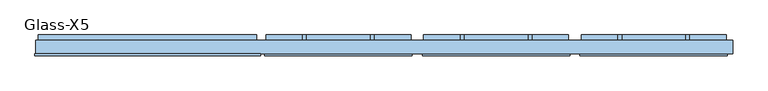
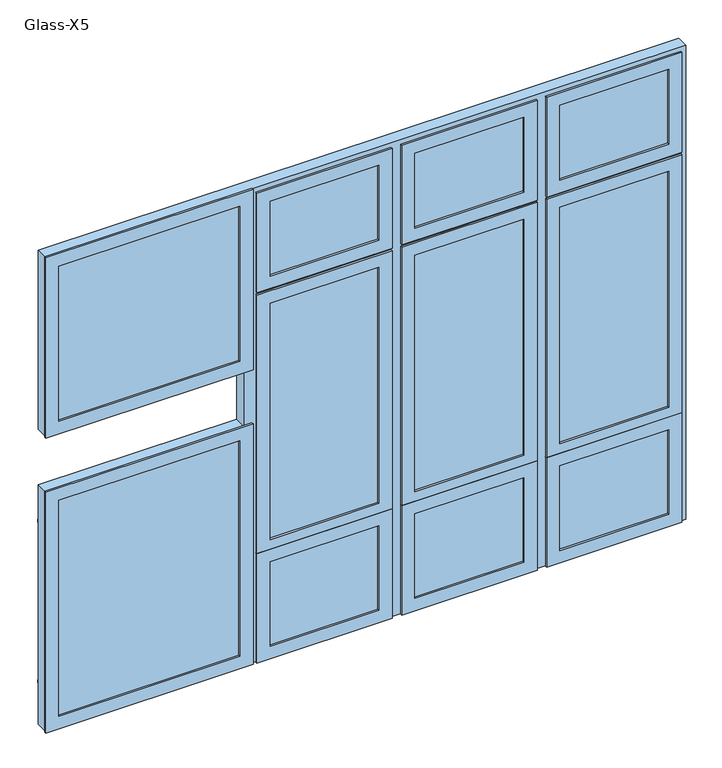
"""IFC4 building model written with IfcOpenShell, lengths in millimetres: window geometry, WDW-CSM-HAA-Type4 : Glass-X5."""

from ifc_helpers import new_model, si_unit, frame, origin, place, context, project, spatial, polyline, outline, extrude, faceted_brep, source, transform, mapped, element, save


def glass_x5_4ce3d7e7(model_context):
    return source(origin(), model_context, "Body", "SolidModel", [
        extrude(outline(polyline([(-381.5, -24.5), (-1029.3, -24.5), (-1029.3, -18.5), (-381.5, -18.5), (-381.5, -24.5)])), frame((0.0, 0.0, 795.0), z_axis=(0.0, 0.0, 1.0), x_axis=(1.0, 0.0, 0.0)), (0.0, 0.0, 1.0), 820.0),
        faceted_brep([(721.9, -31.5, 1164.1), (721.9, -25.0, 1164.1), (721.9, -25.0, 747.9), (721.9, -31.5, 747.9), (769.1, -11.5, 1116.9), (769.1, -31.5, 1116.9), (769.1, -31.5, 795.1), (769.1, -11.5, 795.1), (758.6, 18.5, 1127.4), (758.6, 18.5, 784.6), (750.0, -25.0, 1136.0), (750.0, 18.5, 1136.0), (750.0, 18.5, 776.0), (750.0, -25.0, 776.0), (1208.3, -25.0, 747.9), (1208.3, -31.5, 747.9), (1161.1, -31.5, 795.1), (1161.1, -11.5, 795.1), (1171.6, 18.5, 784.6), (1180.2, 18.5, 776.0), (1180.2, -25.0, 776.0), (1208.3, -25.0, 1164.1), (1208.3, -31.5, 1164.1), (1161.1, -31.5, 1116.9), (1161.1, -11.5, 1116.9), (1171.6, 18.5, 1127.4), (1180.2, 18.5, 1136.0), (1180.2, -25.0, 1136.0)], [[[0, 1, 2, 3]], [[4, 5, 6, 7]], [[8, 4, 7, 9]], [[10, 11, 12, 13]], [[3, 2, 14, 15]], [[7, 6, 16, 17]], [[9, 7, 17, 18]], [[13, 12, 19, 20]], [[15, 14, 21, 22]], [[17, 16, 23, 24]], [[18, 17, 24, 25]], [[20, 19, 26, 27]], [[22, 21, 1, 0]], [[3, 15, 22, 0], [5, 23, 16, 6]], [[24, 23, 5, 4]], [[25, 24, 4, 8]], [[11, 26, 19, 12], [9, 18, 25, 8]], [[27, 26, 11, 10]], [[1, 21, 14, 2], [13, 20, 27, 10]]]),
        faceted_brep([(721.9, -31.5, 2145.1), (721.9, -25.0, 2145.1), (721.9, -25.0, 1153.9), (721.9, -31.5, 1153.9), (769.1, -11.5, 2097.9), (769.1, -31.5, 2097.9), (769.1, -31.5, 1201.1), (769.1, -11.5, 1201.1), (758.6, 18.5, 2108.4), (758.6, 18.5, 1190.6), (750.0, -25.0, 2117.0), (750.0, 18.5, 2117.0), (750.0, 18.5, 1182.0), (750.0, -25.0, 1182.0), (1208.3, -25.0, 1153.9), (1208.3, -31.5, 1153.9), (1161.1, -31.5, 1201.1), (1161.1, -11.5, 1201.1), (1171.6, 18.5, 1190.6), (1180.2, 18.5, 1182.0), (1180.2, -25.0, 1182.0), (1208.3, -25.0, 2145.1), (1208.3, -31.5, 2145.1), (1161.1, -31.5, 2097.9), (1161.1, -11.5, 2097.9), (1171.6, 18.5, 2108.4), (1180.2, 18.5, 2117.0), (1180.2, -25.0, 2117.0)], [[[0, 1, 2, 3]], [[4, 5, 6, 7]], [[8, 4, 7, 9]], [[10, 11, 12, 13]], [[3, 2, 14, 15]], [[7, 6, 16, 17]], [[9, 7, 17, 18]], [[13, 12, 19, 20]], [[15, 14, 21, 22]], [[17, 16, 23, 24]], [[18, 17, 24, 25]], [[20, 19, 26, 27]], [[22, 21, 1, 0]], [[3, 15, 22, 0], [5, 23, 16, 6]], [[24, 23, 5, 4]], [[25, 24, 4, 8]], [[11, 26, 19, 12], [9, 18, 25, 8]], [[27, 26, 11, 10]], [[1, 21, 14, 2], [13, 20, 27, 10]]]),
        faceted_brep([(1208.3, -31.5, 2533.1), (1208.3, -25.0, 2533.1), (721.9, -25.0, 2533.1), (721.9, -31.5, 2533.1), (721.9, -25.0, 2153.9), (721.9, -31.5, 2153.9), (1208.3, -25.0, 2153.9), (750.0, -25.0, 2182.0), (1180.2, -25.0, 2182.0), (1180.2, -25.0, 2505.0), (750.0, -25.0, 2505.0), (1208.3, -31.5, 2153.9), (769.1, -31.5, 2485.9), (1161.1, -31.5, 2485.9), (1161.1, -31.5, 2201.1), (769.1, -31.5, 2201.1), (1161.1, -11.5, 2485.9), (769.1, -11.5, 2485.9), (769.1, -11.5, 2201.1), (758.6, 18.5, 2496.4), (758.6, 18.5, 2190.6), (1171.6, 18.5, 2496.4), (750.0, 18.5, 2505.0), (1180.2, 18.5, 2505.0), (1180.2, 18.5, 2182.0), (750.0, 18.5, 2182.0), (1171.6, 18.5, 2190.6), (1161.1, -11.5, 2201.1)], [[[0, 1, 2, 3]], [[3, 2, 4, 5]], [[2, 1, 6, 4], [7, 8, 9, 10]], [[5, 11, 0, 3], [12, 13, 14, 15]], [[16, 13, 12, 17]], [[17, 12, 15, 18]], [[19, 17, 18, 20]], [[21, 16, 17, 19]], [[22, 23, 24, 25], [20, 26, 21, 19]], [[9, 23, 22, 10]], [[10, 22, 25, 7]], [[11, 6, 1, 0]], [[27, 14, 13, 16]], [[26, 27, 16, 21]], [[8, 24, 23, 9]], [[5, 4, 6, 11]], [[18, 15, 14, 27]], [[20, 18, 27, 26]], [[7, 25, 24, 8]]]),
        faceted_brep([(201.7, -31.5, 1164.1), (201.7, -25.0, 1164.1), (201.7, -25.0, 747.9), (201.7, -31.5, 747.9), (248.9, -11.5, 1116.9), (248.9, -31.5, 1116.9), (248.9, -31.5, 795.1), (248.9, -11.5, 795.1), (238.4, 18.5, 1127.4), (238.4, 18.5, 784.6), (229.8, -25.0, 1136.0), (229.8, 18.5, 1136.0), (229.8, 18.5, 776.0), (229.8, -25.0, 776.0), (688.1, -25.0, 747.9), (688.1, -31.5, 747.9), (640.9, -31.5, 795.1), (640.9, -11.5, 795.1), (651.4, 18.5, 784.6), (660.0, 18.5, 776.0), (660.0, -25.0, 776.0), (688.1, -25.0, 1164.1), (688.1, -31.5, 1164.1), (640.9, -31.5, 1116.9), (640.9, -11.5, 1116.9), (651.4, 18.5, 1127.4), (660.0, 18.5, 1136.0), (660.0, -25.0, 1136.0)], [[[0, 1, 2, 3]], [[4, 5, 6, 7]], [[8, 4, 7, 9]], [[10, 11, 12, 13]], [[3, 2, 14, 15]], [[7, 6, 16, 17]], [[9, 7, 17, 18]], [[13, 12, 19, 20]], [[15, 14, 21, 22]], [[17, 16, 23, 24]], [[18, 17, 24, 25]], [[20, 19, 26, 27]], [[22, 21, 1, 0]], [[3, 15, 22, 0], [5, 23, 16, 6]], [[24, 23, 5, 4]], [[25, 24, 4, 8]], [[11, 26, 19, 12], [9, 18, 25, 8]], [[27, 26, 11, 10]], [[1, 21, 14, 2], [13, 20, 27, 10]]]),
        faceted_brep([(201.7, -31.5, 2145.1), (201.7, -25.0, 2145.1), (201.7, -25.0, 1153.9), (201.7, -31.5, 1153.9), (248.9, -11.5, 2097.9), (248.9, -31.5, 2097.9), (248.9, -31.5, 1201.1), (248.9, -11.5, 1201.1), (238.4, 18.5, 2108.4), (238.4, 18.5, 1190.6), (229.8, -25.0, 2117.0), (229.8, 18.5, 2117.0), (229.8, 18.5, 1182.0), (229.8, -25.0, 1182.0), (688.1, -25.0, 1153.9), (688.1, -31.5, 1153.9), (640.9, -31.5, 1201.1), (640.9, -11.5, 1201.1), (651.4, 18.5, 1190.6), (660.0, 18.5, 1182.0), (660.0, -25.0, 1182.0), (688.1, -25.0, 2145.1), (688.1, -31.5, 2145.1), (640.9, -31.5, 2097.9), (640.9, -11.5, 2097.9), (651.4, 18.5, 2108.4), (660.0, 18.5, 2117.0), (660.0, -25.0, 2117.0)], [[[0, 1, 2, 3]], [[4, 5, 6, 7]], [[8, 4, 7, 9]], [[10, 11, 12, 13]], [[3, 2, 14, 15]], [[7, 6, 16, 17]], [[9, 7, 17, 18]], [[13, 12, 19, 20]], [[15, 14, 21, 22]], [[17, 16, 23, 24]], [[18, 17, 24, 25]], [[20, 19, 26, 27]], [[22, 21, 1, 0]], [[3, 15, 22, 0], [5, 23, 16, 6]], [[24, 23, 5, 4]], [[25, 24, 4, 8]], [[11, 26, 19, 12], [9, 18, 25, 8]], [[27, 26, 11, 10]], [[1, 21, 14, 2], [13, 20, 27, 10]]]),
        faceted_brep([(688.1, -31.5, 2533.1), (688.1, -25.0, 2533.1), (201.7, -25.0, 2533.1), (201.7, -31.5, 2533.1), (201.7, -25.0, 2153.9), (201.7, -31.5, 2153.9), (688.1, -25.0, 2153.9), (229.8, -25.0, 2182.0), (660.0, -25.0, 2182.0), (660.0, -25.0, 2505.0), (229.8, -25.0, 2505.0), (688.1, -31.5, 2153.9), (248.9, -31.5, 2485.9), (640.9, -31.5, 2485.9), (640.9, -31.5, 2201.1), (248.9, -31.5, 2201.1), (640.9, -11.5, 2485.9), (248.9, -11.5, 2485.9), (248.9, -11.5, 2201.1), (238.4, 18.5, 2496.4), (238.4, 18.5, 2190.6), (651.4, 18.5, 2496.4), (229.8, 18.5, 2505.0), (660.0, 18.5, 2505.0), (660.0, 18.5, 2182.0), (229.8, 18.5, 2182.0), (651.4, 18.5, 2190.6), (640.9, -11.5, 2201.1)], [[[0, 1, 2, 3]], [[3, 2, 4, 5]], [[2, 1, 6, 4], [7, 8, 9, 10]], [[5, 11, 0, 3], [12, 13, 14, 15]], [[16, 13, 12, 17]], [[17, 12, 15, 18]], [[19, 17, 18, 20]], [[21, 16, 17, 19]], [[22, 23, 24, 25], [20, 26, 21, 19]], [[9, 23, 22, 10]], [[10, 22, 25, 7]], [[11, 6, 1, 0]], [[27, 14, 13, 16]], [[26, 27, 16, 21]], [[8, 24, 23, 9]], [[5, 4, 6, 11]], [[18, 15, 14, 27]], [[20, 18, 27, 26]], [[7, 25, 24, 8]]]),
        faceted_brep([(-318.5, -31.5, 1164.1), (-318.5, -25.0, 1164.1), (-318.5, -25.0, 747.9), (-318.5, -31.5, 747.9), (-271.3, -11.5, 1116.9), (-271.3, -31.5, 1116.9), (-271.3, -31.5, 795.1), (-271.3, -11.5, 795.1), (-281.8, 18.5, 1127.4), (-281.8, 18.5, 784.6), (-290.4, -25.0, 1136.0), (-290.4, 18.5, 1136.0), (-290.4, 18.5, 776.0), (-290.4, -25.0, 776.0), (166.9, -25.0, 747.9), (166.9, -31.5, 747.9), (119.7, -31.5, 795.1), (119.7, -11.5, 795.1), (130.2, 18.5, 784.6), (138.8, 18.5, 776.0), (138.8, -25.0, 776.0), (166.9, -25.0, 1164.1), (166.9, -31.5, 1164.1), (119.7, -31.5, 1116.9), (119.7, -11.5, 1116.9), (130.2, 18.5, 1127.4), (138.8, 18.5, 1136.0), (138.8, -25.0, 1136.0)], [[[0, 1, 2, 3]], [[4, 5, 6, 7]], [[8, 4, 7, 9]], [[10, 11, 12, 13]], [[3, 2, 14, 15]], [[7, 6, 16, 17]], [[9, 7, 17, 18]], [[13, 12, 19, 20]], [[15, 14, 21, 22]], [[17, 16, 23, 24]], [[18, 17, 24, 25]], [[20, 19, 26, 27]], [[22, 21, 1, 0]], [[3, 15, 22, 0], [5, 23, 16, 6]], [[24, 23, 5, 4]], [[25, 24, 4, 8]], [[11, 26, 19, 12], [9, 18, 25, 8]], [[27, 26, 11, 10]], [[1, 21, 14, 2], [13, 20, 27, 10]]]),
        faceted_brep([(-318.5, -31.5, 2145.1), (-318.5, -25.0, 2145.1), (-318.5, -25.0, 1153.9), (-318.5, -31.5, 1153.9), (-271.3, -11.5, 2097.9), (-271.3, -31.5, 2097.9), (-271.3, -31.5, 1201.1), (-271.3, -11.5, 1201.1), (-281.8, 18.5, 2108.4), (-281.8, 18.5, 1190.6), (-290.4, -25.0, 2117.0), (-290.4, 18.5, 2117.0), (-290.4, 18.5, 1182.0), (-290.4, -25.0, 1182.0), (166.9, -25.0, 1153.9), (166.9, -31.5, 1153.9), (119.7, -31.5, 1201.1), (119.7, -11.5, 1201.1), (130.2, 18.5, 1190.6), (138.8, 18.5, 1182.0), (138.8, -25.0, 1182.0), (166.9, -25.0, 2145.1), (166.9, -31.5, 2145.1), (119.7, -31.5, 2097.9), (119.7, -11.5, 2097.9), (130.2, 18.5, 2108.4), (138.8, 18.5, 2117.0), (138.8, -25.0, 2117.0)], [[[0, 1, 2, 3]], [[4, 5, 6, 7]], [[8, 4, 7, 9]], [[10, 11, 12, 13]], [[3, 2, 14, 15]], [[7, 6, 16, 17]], [[9, 7, 17, 18]], [[13, 12, 19, 20]], [[15, 14, 21, 22]], [[17, 16, 23, 24]], [[18, 17, 24, 25]], [[20, 19, 26, 27]], [[22, 21, 1, 0]], [[3, 15, 22, 0], [5, 23, 16, 6]], [[24, 23, 5, 4]], [[25, 24, 4, 8]], [[11, 26, 19, 12], [9, 18, 25, 8]], [[27, 26, 11, 10]], [[1, 21, 14, 2], [13, 20, 27, 10]]]),
        faceted_brep([(166.9, -31.5, 2533.1), (166.9, -25.0, 2533.1), (-318.5, -25.0, 2533.1), (-318.5, -31.5, 2533.1), (-318.5, -25.0, 2153.9), (-318.5, -31.5, 2153.9), (166.9, -25.0, 2153.9), (-290.4, -25.0, 2182.0), (138.8, -25.0, 2182.0), (138.8, -25.0, 2505.0), (-290.4, -25.0, 2505.0), (166.9, -31.5, 2153.9), (-271.3, -31.5, 2485.9), (119.7, -31.5, 2485.9), (119.7, -31.5, 2201.1), (-271.3, -31.5, 2201.1), (119.7, -11.5, 2485.9), (-271.3, -11.5, 2485.9), (-271.3, -11.5, 2201.1), (-281.8, 18.5, 2496.4), (-281.8, 18.5, 2190.6), (130.2, 18.5, 2496.4), (-290.4, 18.5, 2505.0), (138.8, 18.5, 2505.0), (138.8, 18.5, 2182.0), (-290.4, 18.5, 2182.0), (130.2, 18.5, 2190.6), (119.7, -11.5, 2201.1)], [[[0, 1, 2, 3]], [[3, 2, 4, 5]], [[2, 1, 6, 4], [7, 8, 9, 10]], [[5, 11, 0, 3], [12, 13, 14, 15]], [[16, 13, 12, 17]], [[17, 12, 15, 18]], [[19, 17, 18, 20]], [[21, 16, 17, 19]], [[22, 23, 24, 25], [20, 26, 21, 19]], [[9, 23, 22, 10]], [[10, 22, 25, 7]], [[11, 6, 1, 0]], [[27, 14, 13, 16]], [[26, 27, 16, 21]], [[8, 24, 23, 9]], [[5, 4, 6, 11]], [[18, 15, 14, 27]], [[20, 18, 27, 26]], [[7, 25, 24, 8]]]),
        faceted_brep([(-332.3, -31.5, 2552.1), (-332.3, -25.0, 2552.1), (-1076.5, -25.0, 2552.1), (-1076.5, -31.5, 2552.1), (-1076.5, -25.0, 1867.9), (-1076.5, -31.5, 1867.9), (-332.3, -25.0, 1867.9), (-1048.4, -25.0, 1896.0), (-360.4, -25.0, 1896.0), (-360.4, -25.0, 2524.0), (-1048.4, -25.0, 2524.0), (-332.3, -31.5, 1867.9), (-1029.3, -31.5, 2504.9), (-379.5, -31.5, 2504.9), (-379.5, -31.5, 1915.1), (-1029.3, -31.5, 1915.1), (-379.5, -11.5, 2504.9), (-1029.3, -11.5, 2504.9), (-1029.3, -11.5, 1915.1), (-1039.8, 18.5, 2515.4), (-1039.8, 18.5, 1904.6), (-369.0, 18.5, 2515.4), (-1048.4, 18.5, 2524.0), (-360.4, 18.5, 2524.0), (-360.4, 18.5, 1896.0), (-1048.4, 18.5, 1896.0), (-369.0, 18.5, 1904.6), (-379.5, -11.5, 1915.1)], [[[0, 1, 2, 3]], [[3, 2, 4, 5]], [[2, 1, 6, 4], [7, 8, 9, 10]], [[5, 11, 0, 3], [12, 13, 14, 15]], [[16, 13, 12, 17]], [[17, 12, 15, 18]], [[19, 17, 18, 20]], [[21, 16, 17, 19]], [[22, 23, 24, 25], [20, 26, 21, 19]], [[9, 23, 22, 10]], [[10, 22, 25, 7]], [[11, 6, 1, 0]], [[27, 14, 13, 16]], [[26, 27, 16, 21]], [[8, 24, 23, 9]], [[5, 4, 6, 11]], [[18, 15, 14, 27]], [[20, 18, 27, 26]], [[7, 25, 24, 8]]]),
        faceted_brep([(-1076.5, -31.5, 1662.1), (-1076.5, -25.0, 1662.1), (-1076.5, -25.0, 747.9), (-1076.5, -31.5, 747.9), (-1029.3, -11.5, 1614.9), (-1029.3, -31.5, 1614.9), (-1029.3, -31.5, 795.1), (-1029.3, -11.5, 795.1), (-1039.8, 18.5, 1625.4), (-1039.8, 18.5, 784.6), (-1048.4, -25.0, 1634.0), (-1048.4, 18.5, 1634.0), (-1048.4, 18.5, 776.0), (-1048.4, -25.0, 776.0), (-332.3, -25.0, 747.9), (-332.3, -31.5, 747.9), (-379.5, -31.5, 795.1), (-379.5, -11.5, 795.1), (-369.0, 18.5, 784.6), (-360.4, 18.5, 776.0), (-360.4, -25.0, 776.0), (-332.3, -25.0, 1662.1), (-332.3, -31.5, 1662.1), (-379.5, -31.5, 1614.9), (-379.5, -11.5, 1614.9), (-369.0, 18.5, 1625.4), (-360.4, 18.5, 1634.0), (-360.4, -25.0, 1634.0)], [[[0, 1, 2, 3]], [[4, 5, 6, 7]], [[8, 4, 7, 9]], [[10, 11, 12, 13]], [[3, 2, 14, 15]], [[7, 6, 16, 17]], [[9, 7, 17, 18]], [[13, 12, 19, 20]], [[15, 14, 21, 22]], [[17, 16, 23, 24]], [[18, 17, 24, 25]], [[20, 19, 26, 27]], [[22, 21, 1, 0]], [[3, 15, 22, 0], [5, 23, 16, 6]], [[24, 23, 5, 4]], [[25, 24, 4, 8]], [[11, 26, 19, 12], [9, 18, 25, 8]], [[27, 26, 11, 10]], [[1, 21, 14, 2], [13, 20, 27, 10]]]),
        extrude(outline(polyline([(119.7, -24.5), (-271.3, -24.5), (-271.3, -18.5), (119.7, -18.5), (119.7, -24.5)])), frame((0.0, 0.0, 1201.0), z_axis=(0.0, 0.0, 1.0), x_axis=(1.0, 0.0, 0.0)), (0.0, 0.0, 1.0), 897.0),
        extrude(outline(polyline([(119.7, -24.5), (-271.3, -24.5), (-271.3, -18.5), (119.7, -18.5), (119.7, -24.5)])), frame((0.0, 0.0, 795.0), z_axis=(0.0, 0.0, 1.0), x_axis=(1.0, 0.0, 0.0)), (0.0, 0.0, 1.0), 322.0),
        extrude(outline(polyline([(119.8, -24.5), (-271.4, -24.5), (-271.4, -18.5), (119.8, -18.5), (119.8, -24.5)])), frame((0.0, 0.0, 2201.0), z_axis=(0.0, 0.0, 1.0), x_axis=(1.0, 0.0, 0.0)), (0.0, 0.0, 1.0), 285.0),
        extrude(outline(polyline([(640.9, -24.5), (248.9, -24.5), (248.9, -18.5), (640.9, -18.5), (640.9, -24.5)])), frame((0.0, 0.0, 1201.0), z_axis=(0.0, 0.0, 1.0), x_axis=(1.0, 0.0, 0.0)), (0.0, 0.0, 1.0), 897.0),
        extrude(outline(polyline([(640.9, -24.5), (248.9, -24.5), (248.9, -18.5), (640.9, -18.5), (640.9, -24.5)])), frame((0.0, 0.0, 795.0), z_axis=(0.0, 0.0, 1.0), x_axis=(1.0, 0.0, 0.0)), (0.0, 0.0, 1.0), 322.0),
        extrude(outline(polyline([(641.0, -24.5), (248.8, -24.5), (248.8, -18.5), (641.0, -18.5), (641.0, -24.5)])), frame((0.0, 0.0, 2201.0), z_axis=(0.0, 0.0, 1.0), x_axis=(1.0, 0.0, 0.0)), (0.0, 0.0, 1.0), 285.0),
        extrude(outline(polyline([(1161.1, -24.5), (769.1, -24.5), (769.1, -18.5), (1161.1, -18.5), (1161.1, -24.5)])), frame((0.0, 0.0, 1201.0), z_axis=(0.0, 0.0, 1.0), x_axis=(1.0, 0.0, 0.0)), (0.0, 0.0, 1.0), 896.9),
        extrude(outline(polyline([(1161.1, -24.5), (769.1, -24.5), (769.1, -18.5), (1161.1, -18.5), (1161.1, -24.5)])), frame((0.0, 0.0, 795.1), z_axis=(0.0, 0.0, 1.0), x_axis=(1.0, 0.0, 0.0)), (0.0, 0.0, 1.0), 321.9),
        extrude(outline(polyline([(1161.1, -24.5), (769.1, -24.5), (769.1, -18.5), (1161.1, -18.5), (1161.1, -24.5)])), frame((0.0, 0.0, 2201.1), z_axis=(0.0, 0.0, 1.0), x_axis=(1.0, 0.0, 0.0)), (0.0, 0.0, 1.0), 284.8),
        extrude(outline(polyline([(-381.4, -24.5), (-1029.4, -24.5), (-1029.4, -18.5), (-381.4, -18.5), (-381.4, -24.5)])), frame((0.0, 0.0, 1915.0), z_axis=(0.0, 0.0, 1.0), x_axis=(1.0, 0.0, 0.0)), (0.0, 0.0, 1.0), 590.0),
        extrude(outline(polyline([(1169.8, 1083.1), (2128.8, 1083.1), (2128.8, 847.1), (1169.8, 847.1), (1169.8, 1083.1)]), holes=[polyline([(2019.8021356, 1071.1), (2019.8021356, 859.1), (2116.8, 859.1), (2116.8, 1071.1), (2019.8021356, 1071.1)]), polyline([(1915.6589734, 1071.1), (1915.6589734, 859.1), (2007.8021356, 859.1), (2007.8021356, 1071.1), (1915.6589734, 1071.1)]), polyline([(1811.5158112, 1071.1), (1811.5158112, 859.1), (1903.6589734, 859.1), (1903.6589734, 1071.1), (1811.5158112, 1071.1)]), polyline([(1707.3726489, 1071.1), (1707.3726489, 859.1), (1799.5158112, 859.1), (1799.5158112, 1071.1), (1707.3726489, 1071.1)]), polyline([(1603.2294867, 1071.1), (1603.2294867, 859.1), (1695.3726489, 859.1), (1695.3726489, 1071.1), (1603.2294867, 1071.1)]), polyline([(1499.0863245, 1071.1), (1499.0863245, 859.1), (1591.2294867, 859.1), (1591.2294867, 1071.1), (1499.0863245, 1071.1)]), polyline([(1394.9431622, 1071.1), (1394.9431622, 859.1), (1487.0863245, 859.1), (1487.0863245, 1071.1), (1394.9431622, 1071.1)]), polyline([(1290.8, 1071.1), (1290.8, 859.1), (1382.9431622, 859.1), (1382.9431622, 1071.1), (1290.8, 1071.1)]), polyline([(1278.8, 859.1), (1278.8, 1071.1), (1181.8, 1071.1), (1181.8, 859.1), (1278.8, 859.1)])]), frame((0.0, 18.5, 0.0), z_axis=(0.0, 1.0, 0.0), x_axis=(0.0, 0.0, 1.0)), (0.0, 0.0, 1.0), 18.0),
        extrude(outline(polyline([(1005.4, 1204.1), (1017.4, 1204.1), (1017.4, 974.8943725), (1017.4, 726.1), (1005.4, 726.1), (1005.4, 841.1), (906.0, 841.1), (906.0, 726.1), (894.0, 726.1), (894.0, 1049.8861005), (894.0, 1204.1), (906.0, 1204.1), (906.0, 1089.1), (1005.4, 1089.1), (1005.4, 1204.1)]), holes=[polyline([(906.0, 1077.1), (906.0, 1070.4493924), (906.0, 853.1), (1005.4, 853.1), (1005.4, 987.3337421), (1005.4, 1077.1), (906.0, 1077.1)])]), frame((0.0, 18.5, 0.0), z_axis=(0.0, 1.0, 0.0), x_axis=(0.0, 0.0, 1.0)), (0.0, 0.0, 1.0), 18.0),
        extrude(outline(polyline([(2163.8, 1083.1), (2521.8, 1083.1), (2521.8, 1071.1), (2404.4666667, 1071.1), (2404.4666667, 859.1), (2521.8, 859.1), (2521.8, 847.1), (2163.8, 847.1), (2163.8, 859.1), (2281.1333333, 859.1), (2281.1333333, 1071.1), (2163.8, 1071.1), (2163.8, 1083.1)]), holes=[polyline([(2392.4666667, 859.1), (2392.4666667, 1071.1), (2293.1333333, 1071.1), (2293.1333333, 859.1), (2392.4666667, 859.1)])]), frame((0.0, 18.5, 0.0), z_axis=(0.0, 1.0, 0.0), x_axis=(0.0, 0.0, 1.0)), (0.0, 0.0, 1.0), 18.0),
        extrude(outline(polyline([(1169.8, 562.9), (2128.8, 562.9), (2128.8, 326.9), (1169.8, 326.9), (1169.8, 562.9)]), holes=[polyline([(2019.8021356, 550.9), (2019.8021356, 338.9), (2116.8, 338.9), (2116.8, 550.9), (2019.8021356, 550.9)]), polyline([(1915.6589734, 550.9), (1915.6589734, 338.9), (2007.8021356, 338.9), (2007.8021356, 550.9), (1915.6589734, 550.9)]), polyline([(1811.5158112, 550.9), (1811.5158112, 338.9), (1903.6589734, 338.9), (1903.6589734, 550.9), (1811.5158112, 550.9)]), polyline([(1707.3726489, 550.9), (1707.3726489, 338.9), (1799.5158112, 338.9), (1799.5158112, 550.9), (1707.3726489, 550.9)]), polyline([(1603.2294867, 550.9), (1603.2294867, 338.9), (1695.3726489, 338.9), (1695.3726489, 550.9), (1603.2294867, 550.9)]), polyline([(1499.0863245, 550.9), (1499.0863245, 338.9), (1591.2294867, 338.9), (1591.2294867, 550.9), (1499.0863245, 550.9)]), polyline([(1394.9431622, 550.9), (1394.9431622, 338.9), (1487.0863245, 338.9), (1487.0863245, 550.9), (1394.9431622, 550.9)]), polyline([(1290.8, 550.9), (1290.8, 338.9), (1382.9431622, 338.9), (1382.9431622, 550.9), (1290.8, 550.9)]), polyline([(1278.8, 338.9), (1278.8, 550.9), (1181.8, 550.9), (1181.8, 338.9), (1278.8, 338.9)])]), frame((0.0, 18.5, 0.0), z_axis=(0.0, 1.0, 0.0), x_axis=(0.0, 0.0, 1.0)), (0.0, 0.0, 1.0), 18.0),
        extrude(outline(polyline([(1005.4, 683.9), (1017.4, 683.9), (1017.4, 454.6943725), (1017.4, 205.9), (1005.4, 205.9), (1005.4, 320.9), (906.0, 320.9), (906.0, 205.9), (894.0, 205.9), (894.0, 529.6861005), (894.0, 683.9), (906.0, 683.9), (906.0, 568.9), (1005.4, 568.9), (1005.4, 683.9)]), holes=[polyline([(906.0, 556.9), (906.0, 550.2493924), (906.0, 332.9), (1005.4, 332.9), (1005.4, 467.1337421), (1005.4, 556.9), (906.0, 556.9)])]), frame((0.0, 18.5, 0.0), z_axis=(0.0, 1.0, 0.0), x_axis=(0.0, 0.0, 1.0)), (0.0, 0.0, 1.0), 18.0),
        extrude(outline(polyline([(2163.8, 562.9), (2521.8, 562.9), (2521.8, 550.9), (2404.4666667, 550.9), (2404.4666667, 338.9), (2521.8, 338.9), (2521.8, 326.9), (2163.8, 326.9), (2163.8, 338.9), (2281.1333333, 338.9), (2281.1333333, 550.9), (2163.8, 550.9), (2163.8, 562.9)]), holes=[polyline([(2392.4666667, 338.9), (2392.4666667, 550.9), (2293.1333333, 550.9), (2293.1333333, 338.9), (2392.4666667, 338.9)])]), frame((0.0, 18.5, 0.0), z_axis=(0.0, 1.0, 0.0), x_axis=(0.0, 0.0, 1.0)), (0.0, 0.0, 1.0), 18.0),
        extrude(outline(polyline([(1169.8, 41.7), (2128.8, 41.7), (2128.8, -193.3), (1169.8, -193.3), (1169.8, 41.7)]), holes=[polyline([(2019.8021356, 30.7), (2019.8021356, -181.3), (2116.8, -181.3), (2116.8, 30.7), (2019.8021356, 30.7)]), polyline([(1915.6589734, 30.7), (1915.6589734, -181.3), (2007.8021356, -181.3), (2007.8021356, 30.7), (1915.6589734, 30.7)]), polyline([(1811.5158112, 30.7), (1811.5158112, -181.3), (1903.6589734, -181.3), (1903.6589734, 30.7), (1811.5158112, 30.7)]), polyline([(1707.3726489, 30.7), (1707.3726489, -181.3), (1799.5158112, -181.3), (1799.5158112, 30.7), (1707.3726489, 30.7)]), polyline([(1603.2294867, 30.7), (1603.2294867, -181.3), (1695.3726489, -181.3), (1695.3726489, 30.7), (1603.2294867, 30.7)]), polyline([(1499.0863245, 30.7), (1499.0863245, -181.3), (1591.2294867, -181.3), (1591.2294867, 30.7), (1499.0863245, 30.7)]), polyline([(1394.9431622, 30.7), (1394.9431622, -181.3), (1487.0863245, -181.3), (1487.0863245, 30.7), (1394.9431622, 30.7)]), polyline([(1290.8, 30.7), (1290.8, -181.3), (1382.9431622, -181.3), (1382.9431622, 30.7), (1290.8, 30.7)]), polyline([(1278.8, -181.3), (1278.8, 30.7), (1181.8, 30.7), (1181.8, -181.3), (1278.8, -181.3)])]), frame((0.0, 18.5, 0.0), z_axis=(0.0, 1.0, 0.0), x_axis=(0.0, 0.0, 1.0)), (0.0, 0.0, 1.0), 18.0),
        extrude(outline(polyline([(1005.4, 163.7), (1017.4, 163.7), (1017.4, -65.5056275), (1017.4, -314.3), (1005.4, -314.3), (1005.4, -199.3), (906.0, -199.3), (906.0, -314.3), (894.0, -314.3), (894.0, 9.4861005), (894.0, 163.7), (906.0, 163.7), (906.0, 48.7), (1005.4, 48.7), (1005.4, 163.7)]), holes=[polyline([(906.0, 36.7), (906.0, 30.0493924), (906.0, -187.3), (1005.4, -187.3), (1005.4, -53.0662579), (1005.4, 36.7), (906.0, 36.7)])]), frame((0.0, 18.5, 0.0), z_axis=(0.0, 1.0, 0.0), x_axis=(0.0, 0.0, 1.0)), (0.0, 0.0, 1.0), 18.0),
        extrude(outline(polyline([(2163.8, 41.7), (2521.8, 41.7), (2521.8, 30.7), (2404.4666667, 30.7), (2404.4666667, -181.3), (2521.8, -181.3), (2521.8, -193.3), (2163.8, -193.3), (2163.8, -181.3), (2281.1333333, -181.3), (2281.1333333, 29.7), (2163.8, 29.7), (2163.8, 41.7)]), holes=[polyline([(2392.4666667, -181.3), (2392.4666667, 29.7), (2293.1333333, 29.7), (2293.1333333, -181.3), (2392.4666667, -181.3)])]), frame((0.0, 18.5, 0.0), z_axis=(0.0, 1.0, 0.0), x_axis=(0.0, 0.0, 1.0)), (0.0, 0.0, 1.0), 18.0),
        extrude(outline(polyline([(2550.0, -1074.4), (1870.0, -1074.4), (1870.0, -362.4), (1660.0, -362.4), (1660.0, -1074.4), (750.0, -1074.4), (750.0, 1225.2), (2550.0, 1225.2), (2550.0, -1074.4)]), holes=[polyline([(1136.0, -290.4), (1136.0, 139.8), (776.0, 139.8), (776.0, -290.4), (1136.0, -290.4)]), polyline([(1136.0, 229.8), (1136.0, 660.0), (776.0, 660.0), (776.0, 229.8), (1136.0, 229.8)]), polyline([(1136.0, 750.0), (1136.0, 1180.2), (776.0, 1180.2), (776.0, 750.0), (1136.0, 750.0)]), polyline([(2524.0, -1048.4), (2524.0, -362.4), (1896.0, -362.4), (1896.0, -1048.4), (2524.0, -1048.4)]), polyline([(2505.0, -290.4), (2505.0, 139.8), (2182.0, 139.8), (2182.0, -290.4), (2505.0, -290.4)]), polyline([(2505.0, 229.8), (2505.0, 660.0), (2182.0, 660.0), (2182.0, 229.8), (2505.0, 229.8)]), polyline([(2505.0, 750.0), (2505.0, 1180.2), (2182.0, 1180.2), (2182.0, 750.0), (2505.0, 750.0)]), polyline([(1634.0, -1048.4), (1634.0, -362.4), (776.0, -362.4), (776.0, -1048.4), (1634.0, -1048.4)]), polyline([(2117.0, -290.4), (2117.0, 139.8), (1182.0, 139.8), (1182.0, -290.4), (2117.0, -290.4)]), polyline([(2117.0, 229.8), (2117.0, 660.0), (1182.0, 660.0), (1182.0, 229.8), (2117.0, 229.8)]), polyline([(2117.0, 750.0), (2117.0, 1180.2), (1182.0, 1180.2), (1182.0, 750.0), (2117.0, 750.0)])]), frame((0.0, -25.0, 0.0), z_axis=(0.0, 1.0, 0.0), x_axis=(0.0, 0.0, 1.0)), (0.0, 0.0, 1.0), 43.5),
        extrude(outline(polyline([(1514.6, -344.4), (1514.6, -1065.6), (1502.6, -1065.6), (1502.6, -919.7), (906.0, -919.7), (906.0, -1065.6), (894.0, -1065.6), (894.0, -344.4), (906.0, -344.4), (906.0, -472.3), (1502.6, -472.3), (1502.6, -344.4), (1514.6, -344.4)]), holes=[polyline([(1198.3, -907.7), (1198.3, -484.3), (1108.8666667, -484.3), (1108.8666667, -907.7), (1198.3, -907.7)]), polyline([(1096.8666667, -907.7), (1096.8666667, -484.3), (1007.4333333, -484.3), (1007.4333333, -907.7), (1096.8666667, -907.7)]), polyline([(995.4333333, -907.7), (995.4333333, -484.3), (906.0, -484.3), (906.0, -907.7), (995.4333333, -907.7)]), polyline([(1502.6, -907.7), (1502.6, -484.3), (1413.1666667, -484.3), (1413.1666667, -907.7), (1502.6, -907.7)]), polyline([(1401.1666667, -907.7), (1401.1666667, -484.3), (1311.7333333, -484.3), (1311.7333333, -907.7), (1401.1666667, -907.7)]), polyline([(1299.7333333, -907.7), (1299.7333333, -484.3), (1210.3, -484.3), (1210.3, -907.7), (1299.7333333, -907.7)])]), frame((0.0, 18.5, 0.0), z_axis=(0.0, 1.0, 0.0), x_axis=(0.0, 0.0, 1.0)), (0.0, 0.0, 1.0), 18.0),
    ])


if __name__ == "__main__":
    model = new_model("IFC4")
    model_context = context("Model", 3, world=origin())
    ifc_project = project(units=[si_unit("LENGTHUNIT", "METRE", prefix="MILLI")], contexts=[model_context])
    site = spatial("IfcSite", under=ifc_project)
    building = spatial("IfcBuilding", under=site)
    placement = place(None, origin())
    glass_x5_shape = glass_x5_4ce3d7e7(model_context)
    element("IfcWindow", 1, ObjectType="WDW-CSM-HAA-Type4 : Glass-X5", at=placement, inside=building, context=model_context, shape_type="MappedRepresentation", body=[
        mapped(glass_x5_shape, transform((0.0, 0.0, 0.0), x_axis=(1.0, 0.0, 0.0), y_axis=(0.0, 1.0, 0.0), z_axis=(0.0, 0.0, 1.0))),
    ])
    save(model, "model.ifc")
